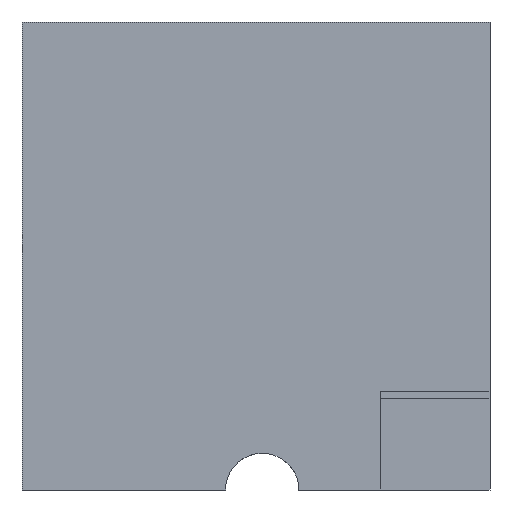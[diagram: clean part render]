
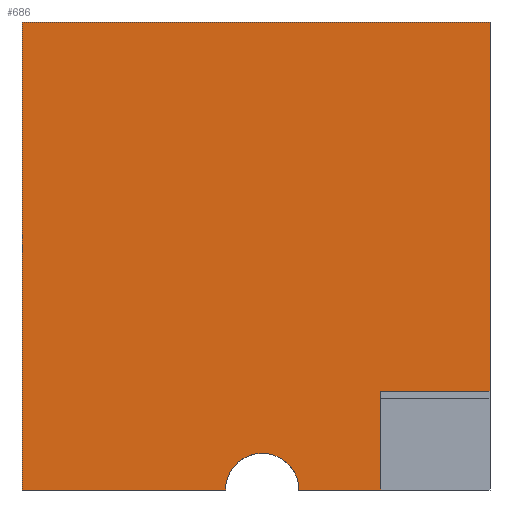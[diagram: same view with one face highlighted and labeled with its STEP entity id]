
A CAD part, left-side view. The second image highlights one B-rep face of the part: STEP entity #686.
In plain terms, the highlighted planar face has unit normal (-1, 0, 0).
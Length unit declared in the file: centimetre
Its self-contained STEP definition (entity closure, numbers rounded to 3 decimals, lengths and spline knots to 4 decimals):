
#15 = CARTESIAN_POINT ( 'NONE',  ( 0., 486.7101, 0. ) ) ;
#24 = CARTESIAN_POINT ( 'NONE',  ( 0., 0., 1000. ) ) ;
#36 = ORIENTED_EDGE ( 'NONE', *, *, #430, .F. ) ;
#44 = DIRECTION ( 'NONE',  ( 1., 0., 0. ) ) ;
#50 = EDGE_CURVE ( 'NONE', #765, #307, #789, .T. ) ;
#53 = CARTESIAN_POINT ( 'NONE',  ( 0., 1000., 1000. ) ) ;
#55 = EDGE_CURVE ( 'NONE', #338, #352, #306, .T. ) ;
#86 = DIRECTION ( 'NONE',  ( -1., 0., 0. ) ) ;
#141 = AXIS2_PLACEMENT_3D ( 'NONE', #809, #86, #407 ) ;
#150 = VECTOR ( 'NONE', #319, 100. ) ;
#183 = VECTOR ( 'NONE', #228, 100. ) ;
#211 = EDGE_CURVE ( 'NONE', #338, #619, #702, .T. ) ;
#228 = DIRECTION ( 'NONE',  ( 0., -1., 0. ) ) ;
#245 = VERTEX_POINT ( 'NONE', #928 ) ;
#247 = EDGE_LOOP ( 'NONE', ( #630, #36, #1016, #722, #664, #603, #551, #457, #580 ) ) ;
#270 = PLANE ( 'NONE',  #655 ) ;
#290 = CARTESIAN_POINT ( 'NONE',  ( 0., 1000., 1000. ) ) ;
#292 = EDGE_CURVE ( 'NONE', #355, #479, #940, .T. ) ;
#293 = VERTEX_POINT ( 'NONE', #516 ) ;
#295 = DIRECTION ( 'NONE',  ( 0., -1., 0. ) ) ;
#306 = LINE ( 'NONE', #626, #183 ) ;
#307 = VERTEX_POINT ( 'NONE', #527 ) ;
#319 = DIRECTION ( 'NONE',  ( 0., 1., 0. ) ) ;
#331 = CARTESIAN_POINT ( 'NONE',  ( 0., 233.4625, 0. ) ) ;
#338 = VERTEX_POINT ( 'NONE', #463 ) ;
#352 = VERTEX_POINT ( 'NONE', #331 ) ;
#355 = VERTEX_POINT ( 'NONE', #567 ) ;
#388 = EDGE_CURVE ( 'NONE', #355, #765, #640, .T. ) ;
#407 = DIRECTION ( 'NONE',  ( 0., 0., 1. ) ) ;
#430 = EDGE_CURVE ( 'NONE', #619, #245, #602, .T. ) ;
#435 = DIRECTION ( 'NONE',  ( 0., 0., -1. ) ) ;
#436 = DIRECTION ( 'NONE',  ( 0., 0., -1. ) ) ;
#452 = LINE ( 'NONE', #467, #744 ) ;
#457 = ORIENTED_EDGE ( 'NONE', *, *, #388, .F. ) ;
#463 = CARTESIAN_POINT ( 'NONE',  ( 0., 408.1919, 0. ) ) ;
#467 = CARTESIAN_POINT ( 'NONE',  ( 0., 1000., 0. ) ) ;
#479 = VERTEX_POINT ( 'NONE', #907 ) ;
#509 = CARTESIAN_POINT ( 'NONE',  ( 0., 486.7101, 78.5182 ) ) ;
#516 = CARTESIAN_POINT ( 'NONE',  ( 0., 233.4625, 210.9059 ) ) ;
#527 = CARTESIAN_POINT ( 'NONE',  ( 0., 0., 210.9059 ) ) ;
#551 = ORIENTED_EDGE ( 'NONE', *, *, #50, .F. ) ;
#558 = CARTESIAN_POINT ( 'NONE',  ( 0., 0., 210.9059 ) ) ;
#567 = CARTESIAN_POINT ( 'NONE',  ( 0., 1000., 1000. ) ) ;
#580 = ORIENTED_EDGE ( 'NONE', *, *, #292, .T. ) ;
#599 = DIRECTION ( 'NONE',  ( -1., 0., 0. ) ) ;
#602 = CIRCLE ( 'NONE', #141, 78.5182 ) ;
#603 = ORIENTED_EDGE ( 'NONE', *, *, #903, .F. ) ;
#619 = VERTEX_POINT ( 'NONE', #509 ) ;
#626 = CARTESIAN_POINT ( 'NONE',  ( 0., 1000., 0. ) ) ;
#630 = ORIENTED_EDGE ( 'NONE', *, *, #878, .T. ) ;
#635 = LINE ( 'NONE', #558, #150 ) ;
#640 = LINE ( 'NONE', #725, #667 ) ;
#651 = DIRECTION ( 'NONE',  ( 0., -1., 0. ) ) ;
#655 = AXIS2_PLACEMENT_3D ( 'NONE', #290, #44, #436 ) ;
#664 = ORIENTED_EDGE ( 'NONE', *, *, #814, .F. ) ;
#667 = VECTOR ( 'NONE', #651, 100. ) ;
#673 = FACE_OUTER_BOUND ( 'NONE', #247, .T. ) ;
#674 = AXIS2_PLACEMENT_3D ( 'NONE', #15, #599, #846 ) ;
#686 = ADVANCED_FACE ( 'NONE', ( #673 ), #270, .F. ) ;
#690 = CARTESIAN_POINT ( 'NONE',  ( 0., 233.4625, 0. ) ) ;
#702 = CIRCLE ( 'NONE', #674, 78.5182 ) ;
#704 = CARTESIAN_POINT ( 'NONE',  ( 0., 0., 1000. ) ) ;
#722 = ORIENTED_EDGE ( 'NONE', *, *, #55, .T. ) ;
#725 = CARTESIAN_POINT ( 'NONE',  ( 0., 1000., 1000. ) ) ;
#744 = VECTOR ( 'NONE', #295, 100. ) ;
#765 = VERTEX_POINT ( 'NONE', #24 ) ;
#783 = VECTOR ( 'NONE', #1023, 100. ) ;
#789 = LINE ( 'NONE', #704, #1030 ) ;
#803 = LINE ( 'NONE', #690, #783 ) ;
#809 = CARTESIAN_POINT ( 'NONE',  ( 0., 486.7101, 0. ) ) ;
#814 = EDGE_CURVE ( 'NONE', #293, #352, #803, .T. ) ;
#846 = DIRECTION ( 'NONE',  ( 0., 0., 1. ) ) ;
#878 = EDGE_CURVE ( 'NONE', #479, #245, #452, .T. ) ;
#903 = EDGE_CURVE ( 'NONE', #307, #293, #635, .T. ) ;
#907 = CARTESIAN_POINT ( 'NONE',  ( 0., 1000., 0. ) ) ;
#928 = CARTESIAN_POINT ( 'NONE',  ( 0., 565.2283, 0. ) ) ;
#940 = LINE ( 'NONE', #53, #954 ) ;
#954 = VECTOR ( 'NONE', #435, 100. ) ;
#1016 = ORIENTED_EDGE ( 'NONE', *, *, #211, .F. ) ;
#1023 = DIRECTION ( 'NONE',  ( 0., 0., -1. ) ) ;
#1030 = VECTOR ( 'NONE', #1032, 100. ) ;
#1032 = DIRECTION ( 'NONE',  ( 0., 0., -1. ) ) ;
